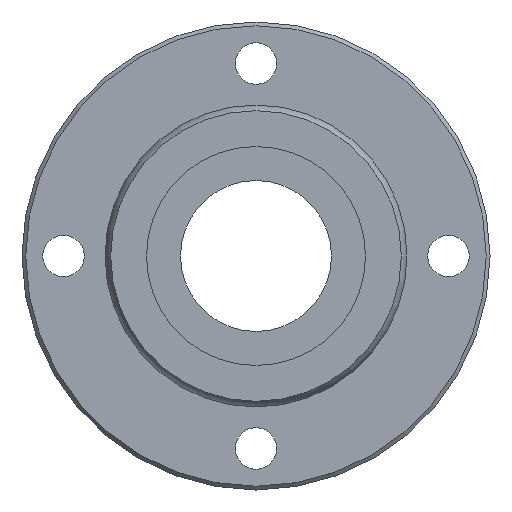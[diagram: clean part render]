
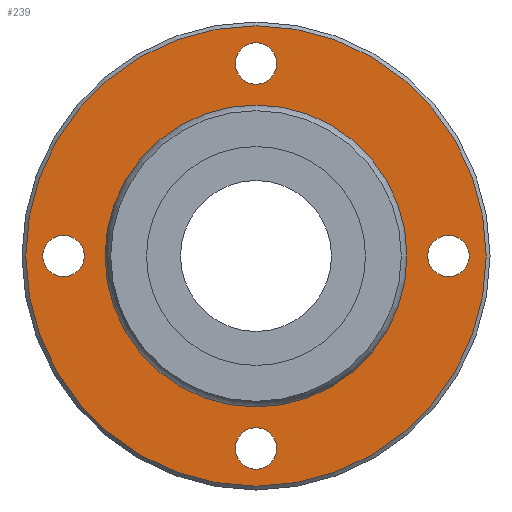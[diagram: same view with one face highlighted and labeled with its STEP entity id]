
A CAD part, left-side view. The second image highlights one B-rep face of the part: STEP entity #239.
In plain terms, the highlighted planar face has unit normal (-1, 0, 0).
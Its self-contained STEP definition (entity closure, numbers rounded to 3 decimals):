
#164=CARTESIAN_POINT('',(40.0,0.,30.5));
#165=VERTEX_POINT('',#164);
#166=CARTESIAN_POINT('',(40.0,0.0,0.0));
#167=DIRECTION('',(1.0,0.0,0.0));
#168=DIRECTION('',(0.0,0.0,-1.0));
#169=AXIS2_PLACEMENT_3D('',#166,#167,#168);
#170=CIRCLE('',#169,30.5);
#171=EDGE_CURVE('',#165,#165,#170,.T.);
#176=CARTESIAN_POINT('',(40.0,0.0,25.282));
#177=DIRECTION('',(-1.0,0.0,0.0));
#178=DIRECTION('',(0.0,0.0,1.0));
#179=AXIS2_PLACEMENT_3D('',#176,#177,#178);
#180=PLANE('',#179);
#181=ORIENTED_EDGE('',*,*,#171,.F.);
#182=EDGE_LOOP('',(#181));
#183=FACE_OUTER_BOUND('',#182,.T.);
#184=CARTESIAN_POINT('',(40.0,0.0,19.564));
#185=VERTEX_POINT('',#184);
#186=CARTESIAN_POINT('',(40.0,0.0,0.0));
#187=DIRECTION('',(-1.0,0.0,0.0));
#188=DIRECTION('',(0.0,0.0,1.0));
#189=AXIS2_PLACEMENT_3D('',#186,#187,#188);
#190=CIRCLE('',#189,19.564);
#191=EDGE_CURVE('',#185,#185,#190,.T.);
#192=ORIENTED_EDGE('',*,*,#191,.F.);
#193=EDGE_LOOP('',(#192));
#194=FACE_BOUND('',#193,.T.);
#195=CARTESIAN_POINT('',(40.0,-28.25,0.));
#196=VERTEX_POINT('',#195);
#197=CARTESIAN_POINT('',(40.0,-25.5,0.));
#198=DIRECTION('',(1.0,0.0,0.0));
#199=DIRECTION('',(0.0,1.0,0.0));
#200=AXIS2_PLACEMENT_3D('',#197,#198,#199);
#201=CIRCLE('',#200,2.75);
#202=EDGE_CURVE('',#196,#196,#201,.T.);
#203=ORIENTED_EDGE('',*,*,#202,.T.);
#204=EDGE_LOOP('',(#203));
#205=FACE_BOUND('',#204,.T.);
#206=CARTESIAN_POINT('',(40.0,22.75,0.));
#207=VERTEX_POINT('',#206);
#208=CARTESIAN_POINT('',(40.0,25.5,0.));
#209=DIRECTION('',(1.0,0.0,0.0));
#210=DIRECTION('',(0.0,1.0,0.0));
#211=AXIS2_PLACEMENT_3D('',#208,#209,#210);
#212=CIRCLE('',#211,2.75);
#213=EDGE_CURVE('',#207,#207,#212,.T.);
#214=ORIENTED_EDGE('',*,*,#213,.T.);
#215=EDGE_LOOP('',(#214));
#216=FACE_BOUND('',#215,.T.);
#217=CARTESIAN_POINT('',(40.0,-2.75,25.5));
#218=VERTEX_POINT('',#217);
#219=CARTESIAN_POINT('',(40.0,0.,25.5));
#220=DIRECTION('',(1.0,0.0,0.0));
#221=DIRECTION('',(0.0,1.0,0.0));
#222=AXIS2_PLACEMENT_3D('',#219,#220,#221);
#223=CIRCLE('',#222,2.75);
#224=EDGE_CURVE('',#218,#218,#223,.T.);
#225=ORIENTED_EDGE('',*,*,#224,.T.);
#226=EDGE_LOOP('',(#225));
#227=FACE_BOUND('',#226,.T.);
#228=CARTESIAN_POINT('',(40.0,-2.75,-25.5));
#229=VERTEX_POINT('',#228);
#230=CARTESIAN_POINT('',(40.0,0.,-25.5));
#231=DIRECTION('',(1.0,0.0,0.0));
#232=DIRECTION('',(0.0,1.0,0.0));
#233=AXIS2_PLACEMENT_3D('',#230,#231,#232);
#234=CIRCLE('',#233,2.75);
#235=EDGE_CURVE('',#229,#229,#234,.T.);
#236=ORIENTED_EDGE('',*,*,#235,.T.);
#237=EDGE_LOOP('',(#236));
#238=FACE_BOUND('',#237,.T.);
#239=ADVANCED_FACE('',(#183,#194,#205,#216,#227,#238),#180,.T.);
